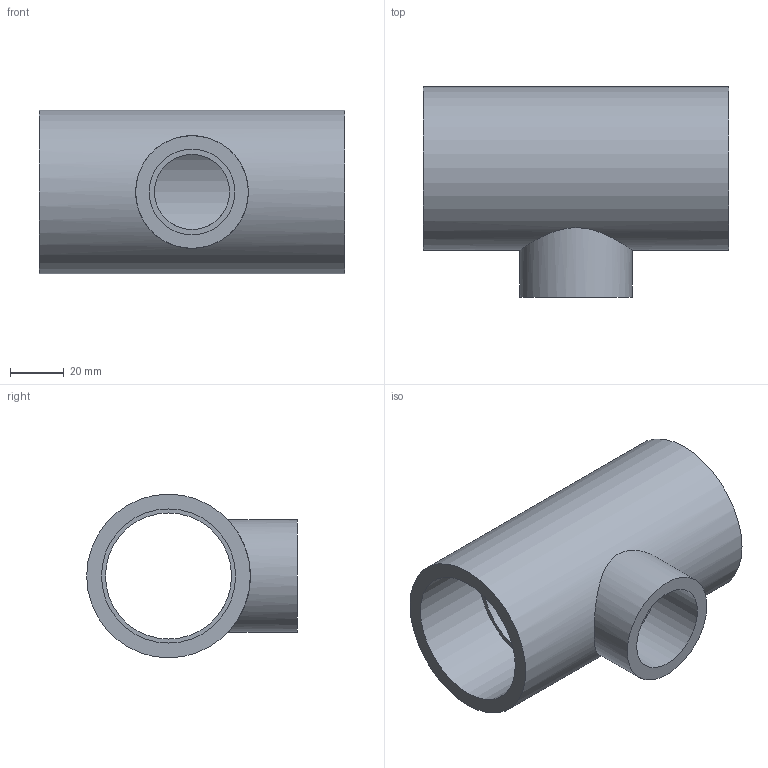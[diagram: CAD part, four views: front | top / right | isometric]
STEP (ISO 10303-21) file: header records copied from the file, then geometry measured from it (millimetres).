
FILE_DESCRIPTION(/* description */ ('PVC ti a 90° ridotto incollaggio metrico'),/* implementation_level */ '2;1');
FILE_NAME(/* name */ 'C:\Users\POLYPIPE\Desktop\DATASET INVENTOR\LIBRERIA EFFAST\RACCORDI 3DxWEB\RDR\3D_RDRTRD\3D_RDRTRD050D.stp',/* time_stamp */ '2018-01-19T15:46:54+01:00',/* author */ ('POLYPIPE'),/* organization */ ('Polypipe Italia s.r.l.'),/* preprocessor_version */ 'ST-DEVELOPER v16.1',/* originating_system */ 'Autodesk Inventor 2016',/* authorisation */ '');
FILE_SCHEMA (('CONFIG_CONTROL_DESIGN'));
Length unit declared in the file: millimetre
Products named in the file (1): 3D_RDRTRD
Bounding box: 114 x 78.5 x 61 mm (x, y, z)
Volume: 128249.2 mm3; surface area: 45748.4 mm2
Topology: 1 solids, 1 shells, 13 faces, 23 edges, 16 vertices
Faces by surface type: cylinder 7, plane 6
Full cylindrical faces by diameter (mm): 28 x1, 32 x1, 42 x1, 47 x1, 50 x2, 61 x1
Entity records: 414 total; most frequent: CARTESIAN_POINT 156, DIRECTION 52, EDGE_LOOP 28, ORIENTED_EDGE 28, AXIS2_PLACEMENT_3D 26, FACE_BOUND 15, VERTEX_POINT 14, EDGE_CURVE 14
